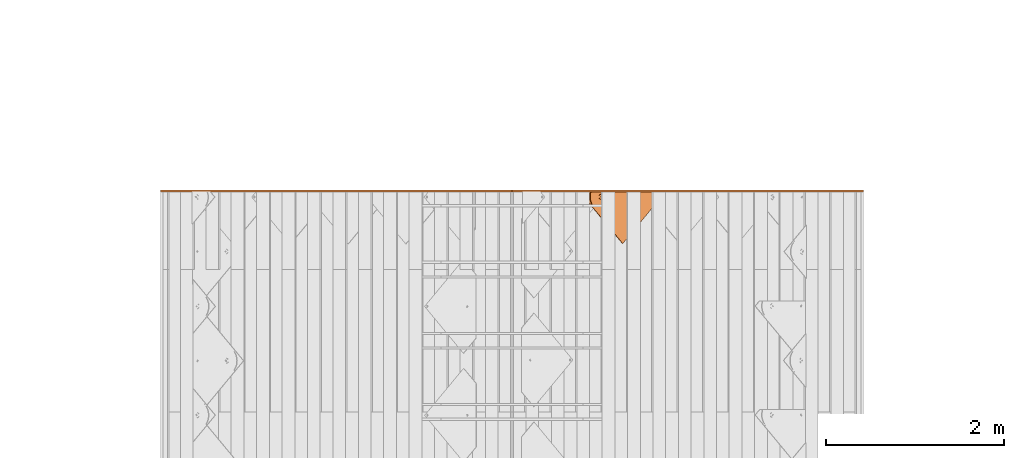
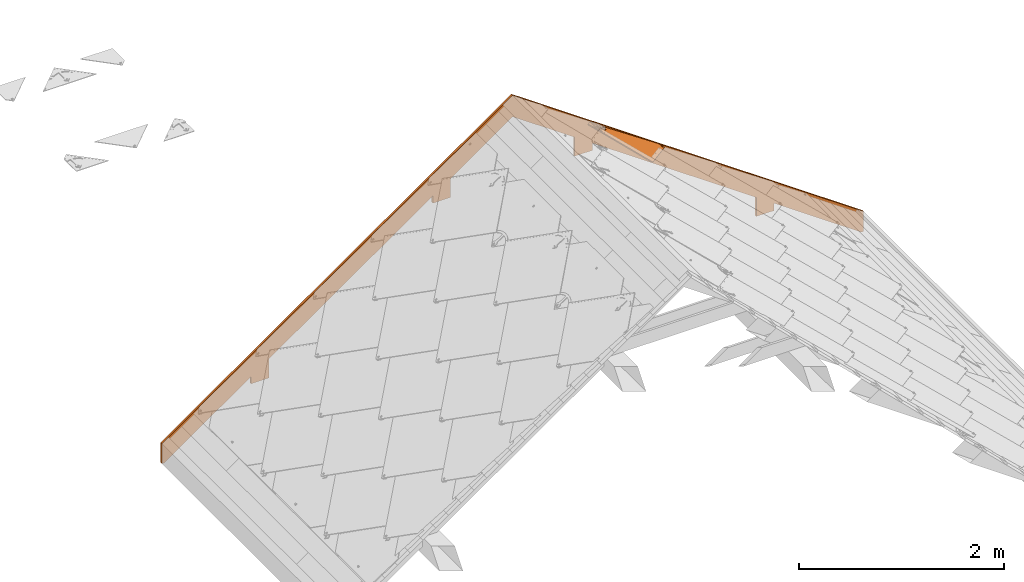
# One storey, part 95 of 151: 2 proxies, 1 element without a shape of its own.
"""IFC2X3 building model written with IfcOpenShell, lengths in millimetres."""

from ifc_helpers import new_model, entity, si_unit, converted_unit, derived_unit, direction, frame, origin, place, context, subcontext, project, spatial, polyline, outline, extrude, faceted_brep, source, transform, mapped, material, material_list, type_object, type_shapes, element, aggregate, save


model = new_model("IFC2X3")

# Units and contexts
model_context = context("Model", 3, precision=0.01, world=origin(), true_north=direction((6.12303176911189e-17, 1.0)))
body_context = subcontext(model_context, "Body", "Model", "MODEL_VIEW")
ifc_project = project(units=[si_unit("LENGTHUNIT", "METRE", prefix="MILLI"), si_unit("AREAUNIT", "SQUARE_METRE"), si_unit("VOLUMEUNIT", "CUBIC_METRE"), converted_unit("PLANEANGLEUNIT", "DEGREE", entity("IfcRatioMeasure", 0.0174532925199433), si_unit("PLANEANGLEUNIT", "RADIAN"), dimensions=[0, 0, 0, 0, 0, 0, 0]), si_unit("MASSUNIT", "GRAM", prefix="KILO"), derived_unit("MASSDENSITYUNIT", [(si_unit("MASSUNIT", "GRAM", prefix="KILO"), 1), (si_unit("LENGTHUNIT", "METRE"), -3)]), si_unit("TIMEUNIT", "SECOND"), si_unit("FREQUENCYUNIT", "HERTZ"), si_unit("THERMODYNAMICTEMPERATUREUNIT", "DEGREE_CELSIUS"), derived_unit("THERMALTRANSMITTANCEUNIT", [(si_unit("MASSUNIT", "GRAM", prefix="KILO"), 1), (si_unit("THERMODYNAMICTEMPERATUREUNIT", "KELVIN"), -1), (si_unit("TIMEUNIT", "SECOND"), -3)]), derived_unit("VOLUMETRICFLOWRATEUNIT", [(si_unit("LENGTHUNIT", "METRE"), 3), (si_unit("TIMEUNIT", "SECOND"), -1)]), si_unit("ELECTRICCURRENTUNIT", "AMPERE"), si_unit("ELECTRICVOLTAGEUNIT", "VOLT"), si_unit("POWERUNIT", "WATT"), si_unit("FORCEUNIT", "NEWTON", prefix="KILO"), si_unit("ILLUMINANCEUNIT", "LUX"), si_unit("LUMINOUSFLUXUNIT", "LUMEN"), si_unit("LUMINOUSINTENSITYUNIT", "CANDELA"), derived_unit("USERDEFINED", [(si_unit("MASSUNIT", "GRAM", prefix="KILO"), -1), (si_unit("LENGTHUNIT", "METRE"), -2), (si_unit("TIMEUNIT", "SECOND"), 3), (si_unit("LUMINOUSFLUXUNIT", "LUMEN"), 1)]), derived_unit("LINEARVELOCITYUNIT", [(si_unit("LENGTHUNIT", "METRE"), 1), (si_unit("TIMEUNIT", "SECOND"), -1)]), si_unit("PRESSUREUNIT", "PASCAL"), derived_unit("USERDEFINED", [(si_unit("LENGTHUNIT", "METRE"), -2), (si_unit("MASSUNIT", "GRAM", prefix="KILO"), 1), (si_unit("TIMEUNIT", "SECOND"), -2)])], contexts=[model_context])

# Site, building, storey
site_placement = place(None, origin())
site = spatial("IfcSite", under=ifc_project, at=site_placement, Name="Default", CompositionType="ELEMENT")
building_placement = place(site_placement, origin())
building = spatial("IfcBuilding", under=site, at=building_placement, CompositionType="ELEMENT")
storey_placement = place(building_placement, origin())
storey = spatial("IfcBuildingStorey", under=building, at=storey_placement, Name="Level 1", CompositionType="ELEMENT", Elevation=0.0)

# Proxy
ifc_material_1 = material(Name="Rubber - Sunstyle - Black")
ifc_material_2 = material(Name="Glass - Sunstyle - Tainted Black")
ifc_material_list_1 = material_list([ifc_material_1, ifc_material_2])
ifc_material_list_2 = material_list([ifc_material_1, ifc_material_2])
building_element_proxy_type_1 = type_object("IfcBuildingElementProxyType", Name="Shingle Right - Black", PredefinedType="NOTDEFINED", material=ifc_material_list_2)
shared_shape_1 = source(origin(), body_context, "Body", "Brep", [
    faceted_brep([(526.70519509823, 41.3127833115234, 3.87722628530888), (520.930992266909, 37.9795131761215, 3.9330502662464), (520.930992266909, 38.34782226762, 25.9249196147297), (526.70519509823, 41.6810924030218, 25.8690956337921), (520.930992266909, 31.3129729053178, 4.0446982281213), (520.930992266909, 31.6812819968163, 26.0365675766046), (526.70519509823, 27.979702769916, 4.1005222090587), (526.70519509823, 28.3480118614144, 26.092391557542), (532.47939792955, 31.3129729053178, 4.04469822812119), (532.47939792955, 31.6812819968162, 26.0365675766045), (532.47939792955, 37.9795131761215, 3.93305026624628), (532.47939792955, 38.3478222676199, 25.9249196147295), (518.101490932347, 26.4120542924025, 26.1248140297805), (526.70519509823, 22.8487830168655, 26.1844899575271), (514.537719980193, 35.0145521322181, 25.9807435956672), (518.101490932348, 43.6170499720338, 25.8366731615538), (526.70519509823, 47.1803212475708, 25.776997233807), (535.308899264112, 43.6170499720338, 25.8366731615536), (538.872670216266, 35.0145521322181, 25.9807435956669), (535.308899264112, 26.4120542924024, 26.1248140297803), (515.380950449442, 37.3096292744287, 28.2935855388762), (516.94872054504, 35.0855670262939, 30.2210682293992), (526.70519509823, 42.3986422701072, 30.8537686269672), (526.70519509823, 43.6391399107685, 30.2734219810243), (526.70519509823, 45.7966907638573, 29.2640469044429), (526.70519509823, 23.4048270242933, 27.4595479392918), (526.70519509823, 24.3484036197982, 29.6232523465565), (526.70519509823, 27.7977793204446, 31.0982967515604), (526.70519509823, 46.6672851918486, 27.0699596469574), (520.381949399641, 31.4479950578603, 31.0371647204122), (520.381949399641, 38.7484265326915, 30.9149006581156), (538.029439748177, 32.7982090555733, 28.3691406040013), (536.554075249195, 34.0111605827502, 30.1422000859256), (533.028440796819, 38.7484265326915, 30.9149006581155), (533.028440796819, 31.4479950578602, 31.0371647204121), (520.381949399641, 31.5820235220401, 39.0400528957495), (526.70519509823, 27.9318077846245, 39.1011849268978), (526.70519509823, 35.2322392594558, 38.9789208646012), (520.381949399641, 38.8824549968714, 38.9177888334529), (533.028440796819, 31.5820235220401, 39.0400528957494), (533.028440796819, 38.8824549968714, 38.9177888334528), (526.70519509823, 42.532670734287, 38.8566568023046), (526.70519509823, 34.6462430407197, 3.98887424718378)], [[[0, 1, 2, 3]], [[1, 4, 5, 2]], [[4, 6, 7, 5]], [[6, 8, 9, 7]], [[8, 10, 11, 9]], [[10, 0, 3, 11]], [[12, 7, 13]], [[7, 12, 5]], [[14, 5, 12]], [[5, 14, 2]], [[15, 2, 14]], [[3, 2, 15]], [[15, 16, 3]], [[16, 17, 3]], [[11, 3, 17]], [[11, 17, 18]], [[9, 11, 18]], [[18, 19, 9]], [[7, 9, 19]], [[19, 13, 7]], [[20, 14, 12]], [[21, 22, 23, 24]], [[24, 20, 21]], [[25, 20, 12]], [[26, 27, 21]], [[15, 14, 20]], [[12, 13, 25]], [[20, 28, 15]], [[28, 20, 24]], [[21, 27, 29]], [[21, 29, 30]], [[26, 21, 20]], [[20, 25, 26]], [[15, 28, 16]], [[21, 30, 22]], [[31, 18, 17]], [[28, 31, 17]], [[32, 27, 26]], [[26, 31, 32]], [[26, 25, 31]], [[25, 19, 31]], [[17, 16, 28]], [[31, 19, 18]], [[24, 31, 28]], [[33, 34, 32]], [[23, 22, 33]], [[24, 32, 31]], [[27, 32, 34]], [[32, 23, 33]], [[19, 25, 13]], [[32, 24, 23]], [[35, 36, 37]], [[37, 38, 35]], [[36, 39, 37]], [[40, 37, 39]], [[37, 40, 41]], [[37, 41, 38]], [[42, 6, 4]], [[4, 1, 42]], [[1, 0, 42]], [[42, 8, 6]], [[0, 10, 42]], [[8, 42, 10]], [[22, 30, 38, 41]], [[30, 29, 35, 38]], [[29, 27, 36, 35]], [[27, 34, 39, 36]], [[34, 33, 40, 39]], [[33, 22, 41, 40]]]),
    faceted_brep([(526.70519509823, 811.19100538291, 21.4210230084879), (526.70519509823, 815.690374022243, 21.3456697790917), (518.101490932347, 814.754276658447, 21.3613470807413), (535.308899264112, 814.754276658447, 21.3613470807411), (533.345423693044, 819.523574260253, 21.2814732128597), (538.872670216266, 823.356774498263, 21.2172766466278), (533.345423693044, 827.189974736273, 21.1530800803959), (535.308899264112, 831.959272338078, 21.0732062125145), (526.70519509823, 831.023174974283, 21.0888835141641), (526.70519509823, 835.522543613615, 21.0135302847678), (518.101490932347, 831.959272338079, 21.0732062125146), (520.064966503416, 827.189974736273, 21.1530800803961), (514.537719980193, 823.356774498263, 21.217276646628), (520.064966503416, 819.523574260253, 21.2814732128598), (520.064966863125, 826.922051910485, 5.15532344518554), (526.70519509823, 830.755251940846, 5.09112688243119), (520.064966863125, 819.255651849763, 5.2837165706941), (526.70519509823, 815.422451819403, 5.34791313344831), (533.345423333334, 819.255651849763, 5.28371657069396), (533.345423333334, 826.922051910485, 5.1553234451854), (518.101490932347, 814.486354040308, 5.36359044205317), (526.70519509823, 810.923082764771, 5.4232663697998), (514.537719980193, 823.088851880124, 5.21952000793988), (518.101490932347, 831.69134971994, 5.07544957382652), (526.70519509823, 835.254620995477, 5.01577364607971), (535.308899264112, 831.69134971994, 5.07544957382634), (538.872670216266, 823.088851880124, 5.21952000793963), (535.308899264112, 814.486354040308, 5.36359044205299)], [[[0, 1, 2]], [[1, 0, 3]], [[3, 4, 1]], [[4, 3, 5]], [[6, 4, 5]], [[5, 7, 6]], [[7, 8, 6]], [[8, 7, 9]], [[8, 9, 10]], [[10, 11, 8]], [[12, 11, 10]], [[2, 13, 12]], [[12, 13, 11]], [[13, 2, 1]], [[8, 11, 14, 15]], [[11, 13, 16, 14]], [[13, 1, 17, 16]], [[1, 4, 18, 17]], [[4, 6, 19, 18]], [[6, 8, 15, 19]], [[20, 17, 21]], [[17, 20, 16]], [[22, 16, 20]], [[14, 16, 22]], [[23, 14, 22]], [[15, 14, 23]], [[23, 24, 15]], [[24, 25, 15]], [[19, 15, 25]], [[19, 25, 26]], [[26, 18, 19]], [[26, 27, 18]], [[17, 18, 27]], [[27, 21, 17]], [[24, 23, 10, 9]], [[10, 23, 22, 12]], [[20, 21, 0, 2]], [[20, 2, 12, 22]], [[21, 27, 3, 0]], [[3, 27, 26, 5]], [[25, 24, 9, 7]], [[25, 7, 5, 26]]]),
    faceted_brep([(578.30986553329, 967.15023469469, 8.79467739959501), (586.794551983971, 975.634921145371, 8.65258001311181), (586.794551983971, 975.660038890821, 10.1523696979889), (578.30986553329, 967.17535244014, 10.294467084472), (517.891471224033, 1027.55168765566, 7.7831033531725), (8.48468645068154, 518.287740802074, 16.3120073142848), (0.0, 526.772427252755, 16.1699099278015), (517.891471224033, 1044.51868144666, 7.49894842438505), (517.891471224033, 1044.54379919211, 8.99873810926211), (0.0, 526.797544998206, 17.6696996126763), (8.4846864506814, 518.312858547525, 17.8117969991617), (517.891471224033, 1027.57680540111, 9.28289303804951)], [[[0, 1, 2, 3]], [[1, 0, 4, 5, 6, 7]], [[2, 1, 7, 8]], [[3, 2, 8, 9, 10, 11]], [[0, 3, 11, 4]], [[5, 10, 9, 6]], [[8, 7, 6, 9]], [[4, 11, 10, 5]]]),
    faceted_brep([(586.794551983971, 975.634921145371, 8.65258001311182), (517.891471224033, 1044.51868144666, 7.49894842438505), (523.812678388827, 834.561085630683, 11.0152157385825), (526.918506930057, 834.969918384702, 11.0083688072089), (530.024335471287, 834.561085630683, 11.0152157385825), (532.918506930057, 833.362448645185, 11.0352899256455), (535.403788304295, 831.455692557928, 11.0672233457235), (537.31081177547, 828.970759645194, 11.1088397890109), (538.509616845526, 826.076993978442, 11.1573031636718), (538.918506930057, 822.971600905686, 11.2093107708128), (538.509616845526, 819.86620783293, 11.2613183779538), (586.79455198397, 60.1087646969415, 23.9853651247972), (520.918506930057, 833.362448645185, 11.0352899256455), (518.433225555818, 831.455692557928, 11.0672233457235), (516.526202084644, 828.970759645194, 11.1088397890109), (515.327397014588, 826.076993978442, 11.1573031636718), (0.0, 526.772427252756, 16.1699099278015), (514.918506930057, 822.971600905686, 11.2093107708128), (515.327397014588, 819.86620783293, 11.2613183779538), (516.526202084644, 816.972442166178, 11.3097817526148), (518.433225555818, 814.487509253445, 11.3513981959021), (520.918506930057, 812.580753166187, 11.3833316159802), (523.812678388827, 811.382116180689, 11.4034058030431), (524.667140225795, 42.642731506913, 24.2778777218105), (522.737692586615, 41.8436401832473, 24.2912605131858), (521.080838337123, 40.572469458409, 24.3125494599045), (519.80948935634, 38.9158475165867, 24.3402937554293), (519.010285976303, 36.9866704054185, 24.37260267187), (518.737692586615, 34.9164083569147, 24.407274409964), (519.010285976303, 32.8461463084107, 24.441946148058), (526.794551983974, 0.125588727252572, 24.989934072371), (519.80948935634, 30.9169691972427, 24.4742550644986), (533.665895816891, 30.9169691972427, 24.4742550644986), (532.394546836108, 29.2603472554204, 24.5019993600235), (530.737692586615, 27.9891765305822, 24.5232883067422), (528.808244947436, 27.1900852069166, 24.5366710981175), (526.737692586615, 26.9175300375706, 24.5412357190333), (524.667140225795, 27.1900852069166, 24.5366710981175), (522.737692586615, 27.9891765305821, 24.5232883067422), (521.080838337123, 29.2603472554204, 24.5019993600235), (526.737692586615, 42.9152866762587, 24.2733131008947), (528.808244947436, 42.6427315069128, 24.2778777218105), (530.737692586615, 41.8436401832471, 24.2912605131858), (532.394546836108, 40.572469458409, 24.3125494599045), (533.665895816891, 38.9158475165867, 24.3402937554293), (534.465099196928, 36.9866704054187, 24.37260267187), (534.737692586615, 34.9164083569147, 24.407274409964), (534.465099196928, 32.8461463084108, 24.441946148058), (526.918506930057, 810.97328342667, 11.4102527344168), (537.31081177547, 816.972442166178, 11.3097817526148), (535.403788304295, 814.487509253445, 11.3513981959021), (532.918506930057, 812.580753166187, 11.3833316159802), (530.024335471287, 811.382116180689, 11.4034058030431), (0.0, 526.646838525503, 8.67096150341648), (519.80948935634, 38.790258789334, 16.8413453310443), (519.010285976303, 36.8610816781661, 16.8736542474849), (521.080838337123, 40.4468807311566, 16.8136010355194), (518.737692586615, 34.7908196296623, 16.9083259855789), (519.010285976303, 32.7205575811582, 16.9429977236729), (526.794551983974, 0.0, 17.4909856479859), (522.737692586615, 41.7180514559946, 16.7923120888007), (524.667140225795, 42.5171427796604, 16.7789292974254), (523.812678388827, 811.256527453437, 3.90445737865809), (520.918506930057, 812.455164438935, 3.88438319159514), (518.433225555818, 814.361920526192, 3.85244977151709), (516.526202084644, 816.846853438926, 3.81083332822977), (515.327397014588, 819.740619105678, 3.76236995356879), (514.918506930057, 822.846012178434, 3.71036234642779), (515.327397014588, 825.95140525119, 3.65835473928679), (517.891471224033, 1044.39309271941, 0.0), (516.526202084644, 828.845170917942, 3.60989136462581), (518.433225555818, 831.330103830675, 3.56827492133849), (520.918506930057, 833.236859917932, 3.53634150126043), (523.812678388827, 834.435496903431, 3.51626731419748), (586.794551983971, 975.509332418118, 1.15363158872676), (526.918506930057, 834.84432965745, 3.50942038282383), (530.024335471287, 834.435496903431, 3.51626731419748), (532.918506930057, 833.236859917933, 3.53634150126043), (535.403788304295, 831.330103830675, 3.56827492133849), (537.31081177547, 828.845170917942, 3.60989136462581), (538.509616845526, 825.95140525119, 3.65835473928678), (538.918506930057, 822.846012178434, 3.71036234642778), (538.509616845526, 819.740619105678, 3.76236995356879), (586.79455198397, 59.983175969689, 16.4864167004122), (526.737692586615, 42.7896979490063, 16.7743646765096), (528.808244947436, 42.5171427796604, 16.7789292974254), (530.737692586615, 41.7180514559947, 16.7923120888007), (532.394546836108, 40.4468807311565, 16.8136010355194), (533.665895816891, 30.7913804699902, 16.9753066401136), (534.465099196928, 32.7205575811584, 16.9429977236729), (534.737692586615, 34.7908196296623, 16.9083259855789), (534.465099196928, 36.8610816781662, 16.8736542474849), (533.665895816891, 38.7902587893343, 16.8413453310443), (526.918506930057, 810.847694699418, 3.91130431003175), (530.024335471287, 811.256527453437, 3.90445737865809), (532.918506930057, 812.455164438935, 3.88438319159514), (535.403788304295, 814.361920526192, 3.85244977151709), (537.31081177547, 816.846853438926, 3.81083332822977), (519.80948935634, 30.7913804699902, 16.9753066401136), (521.080838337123, 29.134758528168, 17.0030509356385), (522.737692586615, 27.8635878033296, 17.0243398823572), (524.667140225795, 27.0644964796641, 17.0377226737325), (526.737692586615, 26.7919413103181, 17.0422872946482), (528.808244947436, 27.0644964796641, 17.0377226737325), (530.737692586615, 27.8635878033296, 17.0243398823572), (532.394546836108, 29.1347585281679, 17.0030509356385)], [[[0, 1, 2]], [[0, 2, 3]], [[3, 4, 0]], [[4, 5, 0]], [[0, 5, 6]], [[6, 7, 0]], [[7, 8, 0]], [[8, 9, 0]], [[9, 10, 0]], [[0, 10, 11]], [[2, 1, 12]], [[13, 12, 1]], [[14, 13, 1]], [[14, 1, 15]], [[15, 1, 16]], [[16, 17, 15]], [[17, 16, 18]], [[19, 18, 16]], [[19, 16, 20]], [[21, 20, 16]], [[22, 21, 16]], [[23, 22, 16]], [[24, 23, 16]], [[16, 25, 24]], [[25, 16, 26]], [[26, 16, 27]], [[28, 27, 16]], [[28, 16, 29]], [[29, 16, 30]], [[30, 31, 29]], [[11, 32, 30]], [[30, 32, 33]], [[34, 30, 33]], [[34, 35, 30]], [[36, 30, 35]], [[30, 36, 37]], [[37, 38, 30]], [[38, 39, 30]], [[39, 31, 30]], [[23, 11, 22]], [[11, 23, 40]], [[11, 40, 41]], [[11, 41, 42]], [[42, 43, 11]], [[44, 11, 43]], [[44, 45, 11]], [[45, 46, 11]], [[47, 11, 46]], [[11, 47, 32]], [[22, 11, 48]], [[10, 49, 11]], [[49, 50, 11]], [[50, 51, 11]], [[51, 52, 11]], [[52, 48, 11]], [[53, 54, 55]], [[54, 53, 56]], [[53, 55, 57]], [[57, 58, 53]], [[53, 58, 59]], [[60, 56, 53]], [[61, 60, 53]], [[61, 53, 62]], [[62, 53, 63]], [[53, 64, 63]], [[64, 53, 65]], [[65, 53, 66]], [[66, 53, 67]], [[67, 53, 68]], [[53, 69, 68]], [[70, 68, 69]], [[71, 70, 69]], [[69, 72, 71]], [[73, 72, 69]], [[73, 69, 74]], [[75, 73, 74]], [[75, 74, 76]], [[77, 76, 74]], [[74, 78, 77]], [[79, 78, 74]], [[80, 79, 74]], [[80, 74, 81]], [[81, 74, 82]], [[82, 74, 83]], [[84, 61, 83]], [[83, 85, 84]], [[86, 85, 83]], [[83, 87, 86]], [[59, 88, 83]], [[83, 88, 89]], [[90, 83, 89]], [[90, 91, 83]], [[91, 92, 83]], [[87, 83, 92]], [[62, 83, 61]], [[93, 83, 62]], [[83, 93, 94]], [[94, 95, 83]], [[83, 95, 96]], [[96, 97, 83]], [[97, 82, 83]], [[59, 58, 98]], [[99, 59, 98]], [[99, 100, 59]], [[100, 101, 59]], [[102, 59, 101]], [[59, 102, 103]], [[59, 103, 104]], [[104, 105, 59]], [[105, 88, 59]], [[16, 1, 69, 53]], [[30, 16, 53, 59]], [[11, 30, 59, 83]], [[1, 0, 74, 69]], [[28, 57, 55, 27]], [[27, 55, 54, 26]], [[24, 25, 56, 60]], [[56, 25, 26, 54]], [[23, 24, 60, 61]], [[23, 61, 84, 40]], [[40, 84, 85, 41]], [[41, 85, 86, 42]], [[44, 43, 87, 92]], [[87, 43, 42, 86]], [[45, 44, 92, 91]], [[45, 91, 90, 46]], [[46, 90, 89, 47]], [[47, 89, 88, 32]], [[34, 33, 105, 104]], [[105, 33, 32, 88]], [[35, 34, 104, 103]], [[35, 103, 102, 36]], [[36, 102, 101, 37]], [[37, 101, 100, 38]], [[31, 39, 99, 98]], [[39, 38, 100, 99]], [[58, 29, 31, 98]], [[29, 58, 57, 28]], [[17, 67, 68, 15]], [[15, 68, 70, 14]], [[12, 13, 71, 72]], [[71, 13, 14, 70]], [[2, 12, 72, 73]], [[2, 73, 75, 3]], [[3, 75, 76, 4]], [[4, 76, 77, 5]], [[7, 6, 78, 79]], [[78, 6, 5, 77]], [[8, 7, 79, 80]], [[8, 80, 81, 9]], [[9, 81, 82, 10]], [[10, 82, 97, 49]], [[51, 50, 96, 95]], [[96, 50, 49, 97]], [[52, 51, 95, 94]], [[52, 94, 93, 48]], [[48, 93, 62, 22]], [[22, 62, 63, 21]], [[19, 20, 64, 65]], [[64, 20, 21, 63]], [[18, 19, 65, 66]], [[18, 66, 67, 17]], [[0, 11, 83, 74]]]),
    faceted_brep([(503.195324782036, 841.557074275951, 20.8994526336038), (517.914693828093, 832.008099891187, 21.0593741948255), (507.695869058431, 846.190079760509, 20.8218613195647), (516.007670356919, 829.523166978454, 21.1009906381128), (499.815755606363, 836.052923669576, 20.9916334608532), (514.808865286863, 826.629401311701, 21.1494540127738), (497.720422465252, 829.943523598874, 21.0939507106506), (514.399975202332, 823.524008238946, 21.2014616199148), (497.010547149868, 823.524008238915, 21.2014616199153), (514.808865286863, 820.41861516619, 21.2534692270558), (516.007670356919, 817.524849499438, 21.3019326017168), (517.914693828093, 815.039916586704, 21.3435490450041), (526.399975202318, 794.138700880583, 21.6935924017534), (520.399975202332, 813.133160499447, 21.3754824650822), (523.294146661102, 811.934523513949, 21.3955566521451), (526.399975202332, 811.52569075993, 21.4024035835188), (529.505803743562, 811.934523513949, 21.3955566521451), (532.399975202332, 813.133160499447, 21.3754824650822), (534.885256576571, 815.039916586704, 21.3435490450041), (555.789403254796, 823.524008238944, 21.2014616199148), (536.792280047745, 817.524849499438, 21.3019326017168), (537.991085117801, 820.41861516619, 21.2534692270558), (538.399975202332, 823.524008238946, 21.2014616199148), (555.079527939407, 829.943523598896, 21.0939507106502), (537.991085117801, 826.629401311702, 21.1494540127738), (552.984194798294, 836.052923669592, 20.9916334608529), (536.792280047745, 829.523166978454, 21.1009906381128), (549.604625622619, 841.557074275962, 20.8994526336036), (534.88525657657, 832.008099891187, 21.0593741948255), (545.104081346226, 846.190079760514, 20.8218613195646), (532.399975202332, 833.914855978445, 21.0274407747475), (539.69997520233, 849.728127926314, 20.7626078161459), (529.505803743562, 835.113492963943, 21.0073665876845), (526.399975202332, 835.522325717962, 21.0005196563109), (513.09997520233, 849.728127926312, 20.762607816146), (513.099975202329, 947.789128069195, 19.1203300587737), (539.699975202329, 948.373752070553, 19.1105390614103), (522.252457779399, 973.425526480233, 18.6909841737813), (556.520926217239, 971.308509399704, 18.7264389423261), (565.239246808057, 944.126992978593, 19.1816617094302), (589.568348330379, 961.999667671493, 18.8823388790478), (589.568348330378, 935.274464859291, 19.3299195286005), (488.310294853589, 968.25512753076, 18.7775754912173), (488.729131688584, 942.717602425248, 19.2052654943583), (456.227055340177, 956.030775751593, 18.9823029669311), (465.633151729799, 933.432284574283, 19.3607714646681), (444.534595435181, 920.223666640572, 19.5819829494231), (427.451419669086, 937.304447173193, 19.2959223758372), (520.399975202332, 833.914855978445, 21.0274407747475), (523.294146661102, 835.113492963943, 21.0073665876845), (526.399975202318, 793.971249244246, 11.6949945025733), (526.399975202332, 811.358239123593, 11.4038056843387), (529.505803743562, 811.767071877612, 11.396958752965), (523.294146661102, 811.767071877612, 11.396958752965), (532.399975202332, 812.96570886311, 11.3768845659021), (534.885256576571, 814.872464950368, 11.344951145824), (555.789403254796, 823.356556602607, 11.2028637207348), (520.399975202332, 812.96570886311, 11.3768845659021), (517.914693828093, 814.872464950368, 11.344951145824), (497.010547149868, 823.356556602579, 11.2028637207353), (516.007670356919, 817.357397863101, 11.3033347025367), (514.808865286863, 820.251163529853, 11.2548713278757), (514.399975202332, 823.356556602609, 11.2028637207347), (497.720422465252, 829.776071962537, 11.0953528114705), (514.808865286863, 826.461949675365, 11.1508561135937), (499.815755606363, 835.885472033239, 10.9930355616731), (516.007670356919, 829.355715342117, 11.1023927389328), (503.195324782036, 841.389622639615, 10.9008547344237), (517.914693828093, 831.84064825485, 11.0607762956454), (507.695869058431, 846.022628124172, 10.8232634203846), (520.399975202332, 833.747404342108, 11.0288428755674), (513.09997520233, 849.560676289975, 10.7640099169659), (523.294146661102, 834.946041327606, 11.0087686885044), (526.399975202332, 835.354874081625, 11.0019217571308), (539.69997520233, 849.560676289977, 10.7640099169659), (513.099975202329, 947.621676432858, 9.12173215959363), (539.69997520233, 948.206300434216, 9.11194116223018), (522.252457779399, 973.258074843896, 8.69238627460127), (488.310294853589, 968.087675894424, 8.77897759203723), (488.729131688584, 942.550150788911, 9.20666759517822), (456.227055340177, 955.863324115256, 8.98370506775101), (465.633151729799, 933.264832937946, 9.36217356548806), (444.533467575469, 920.055518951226, 9.58339670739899), (428.044288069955, 936.544210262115, 9.30725215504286), (421.793762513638, 931.184466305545, 9.39701453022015), (415.826529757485, 925.515365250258, 9.49195786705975), (418.207622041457, 893.733364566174, 10.0242272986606), (401.122816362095, 910.815774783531, 9.73813943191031), (427.451419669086, 937.136995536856, 9.29732447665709), (556.520926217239, 971.141057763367, 8.727841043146), (565.239246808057, 943.959541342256, 9.18306381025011), (589.568348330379, 961.832216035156, 8.88374097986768), (589.568348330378, 935.107013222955, 9.33132162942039), (529.505803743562, 834.946041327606, 11.0087686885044), (532.399975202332, 833.747404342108, 11.0288428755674), (545.104081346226, 846.022628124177, 10.8232634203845), (534.88525657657, 831.84064825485, 11.0607762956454), (549.604625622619, 841.389622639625, 10.9008547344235), (536.792280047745, 829.355715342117, 11.1023927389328), (552.984194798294, 835.885472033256, 10.9930355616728), (537.991085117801, 826.461949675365, 11.1508561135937), (555.079527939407, 829.77607196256, 11.0953528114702), (538.399975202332, 823.356556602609, 11.2028637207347), (537.991085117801, 820.251163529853, 11.2548713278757), (536.792280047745, 817.357397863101, 11.3033347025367), (415.826529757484, 925.557228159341, 11.9916073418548), (401.122816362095, 910.857637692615, 12.2377889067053), (418.207622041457, 893.775227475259, 12.5238767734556), (444.534595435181, 920.09807791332, 12.083034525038), (428.042008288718, 936.584216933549, 11.8069327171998), (421.793762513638, 931.226329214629, 11.8966640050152)], [[[0, 1, 2]], [[3, 1, 0]], [[4, 3, 0]], [[5, 3, 4]], [[4, 6, 5]], [[6, 7, 5]], [[7, 6, 8]], [[9, 7, 8]], [[10, 9, 8]], [[10, 8, 11]], [[8, 12, 11]], [[13, 11, 12]], [[13, 12, 14]], [[12, 15, 14]], [[15, 12, 16]], [[16, 12, 17]], [[18, 17, 12]], [[18, 12, 19]], [[19, 20, 18]], [[21, 20, 19]], [[22, 21, 19]], [[19, 23, 22]], [[24, 22, 23]], [[23, 25, 24]], [[25, 26, 24]], [[26, 25, 27]], [[28, 26, 27]], [[27, 29, 28]], [[30, 28, 29]], [[29, 31, 30]], [[30, 31, 32]], [[32, 31, 33]], [[31, 34, 33]], [[35, 34, 31]], [[35, 31, 36]], [[36, 37, 35]], [[36, 38, 37]], [[39, 38, 36]], [[38, 39, 40]], [[41, 40, 39]], [[37, 42, 35]], [[35, 42, 43]], [[43, 42, 44]], [[44, 45, 43]], [[44, 46, 45]], [[46, 44, 47]], [[48, 34, 2]], [[48, 49, 34]], [[34, 49, 33]], [[48, 2, 1]], [[50, 51, 52]], [[51, 50, 53]], [[50, 52, 54]], [[54, 55, 50]], [[50, 55, 56]], [[57, 53, 50]], [[58, 57, 50]], [[58, 50, 59]], [[59, 60, 58]], [[60, 59, 61]], [[61, 59, 62]], [[63, 62, 59]], [[64, 62, 63]], [[63, 65, 64]], [[64, 65, 66]], [[65, 67, 66]], [[68, 66, 67]], [[69, 68, 67]], [[69, 70, 68]], [[70, 69, 71]], [[71, 72, 70]], [[71, 73, 72]], [[74, 73, 71]], [[71, 75, 74]], [[75, 76, 74]], [[76, 75, 77]], [[77, 75, 78]], [[79, 78, 75]], [[80, 78, 79]], [[79, 81, 80]], [[81, 82, 80]], [[82, 83, 80]], [[84, 83, 82]], [[84, 82, 85]], [[82, 86, 85]], [[86, 87, 85]], [[83, 88, 80]], [[76, 77, 89]], [[89, 90, 76]], [[90, 89, 91]], [[91, 92, 90]], [[93, 73, 74]], [[74, 94, 93]], [[94, 74, 95]], [[95, 96, 94]], [[95, 97, 96]], [[96, 97, 98]], [[99, 98, 97]], [[99, 100, 98]], [[101, 100, 99]], [[102, 100, 101]], [[56, 102, 101]], [[103, 102, 56]], [[56, 55, 104]], [[103, 56, 104]], [[34, 35, 75, 71]], [[2, 34, 71, 69]], [[0, 2, 69, 67]], [[67, 65, 4, 0]], [[6, 4, 65, 63]], [[8, 6, 63, 59]], [[12, 8, 59, 50]], [[19, 12, 50, 56]], [[23, 19, 56, 101]], [[25, 23, 101, 99]], [[99, 97, 27, 25]], [[29, 27, 97, 95]], [[31, 29, 95, 74]], [[36, 31, 74, 76]], [[38, 40, 91, 89]], [[37, 38, 89, 77]], [[77, 78, 42, 37]], [[44, 42, 78, 80]], [[47, 44, 80, 88]], [[7, 62, 64, 5]], [[5, 64, 66, 3]], [[48, 1, 68, 70]], [[66, 68, 1, 3]], [[49, 48, 70, 72]], [[73, 33, 49, 72]], [[32, 93, 94, 30]], [[30, 94, 96, 28]], [[24, 26, 98, 100]], [[96, 98, 26, 28]], [[22, 24, 100, 102]], [[32, 33, 73, 93]], [[22, 102, 103, 21]], [[21, 103, 104, 20]], [[17, 18, 55, 54]], [[104, 55, 18, 20]], [[16, 17, 54, 52]], [[51, 15, 16, 52]], [[14, 53, 57, 13]], [[13, 57, 58, 11]], [[9, 10, 60, 61]], [[58, 60, 10, 11]], [[7, 9, 61, 62]], [[14, 15, 51, 53]], [[105, 106, 107, 108, 109, 110]], [[107, 106, 87, 86]], [[108, 107, 82]], [[86, 82, 107]], [[109, 83, 110]], [[110, 83, 84]], [[84, 85, 105, 110]], [[106, 105, 85, 87]], [[46, 47, 109]], [[109, 47, 88]], [[46, 109, 108]], [[83, 109, 88]], [[108, 81, 45, 46]], [[108, 82, 81]], [[79, 75, 35, 43]], [[81, 79, 43, 45]], [[76, 90, 39, 36]], [[92, 41, 39, 90]], [[40, 41, 92, 91]]]),
])
type_shapes(building_element_proxy_type_1, [shared_shape_1])
proxy_1_placement = place(storey_placement, frame((2931.37195886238, 3346.92152103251, 1663.35740457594), z_axis=(0.573576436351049, 0.0, 0.81915204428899), x_axis=(0.0, 1.0, 0.0)))
element("IfcBuildingElementProxy", 1, at=proxy_1_placement, inside=storey, type_object=building_element_proxy_type_1, material=ifc_material_list_1, Name="Roofing_Panels_SunStyle_Tile_Shingle-Right:Shingle Right - Black", ObjectType="Roofing_Panels_SunStyle_Tile_Shingle-Right:Shingle Right - Black", context=body_context, shape_type="MappedRepresentation", body=[
    mapped(shared_shape_1, transform((0.0, 0.0, 0.0), scale=1.0)),
])

# Assembly, proxy
assembly_placement = place(storey_placement, origin())
assembly = element("IfcElementAssembly", 2, at=assembly_placement, inside=storey, Name="Structural Framing Assembly:Roof Construction Assembly", ObjectType="Structural Framing Assembly:Roof Construction Assembly", AssemblyPlace="NOTDEFINED", PredefinedType="USERDEFINED")
ifc_material_3 = material(Name="Steel - Generic - Black Steel")
building_element_proxy_type_2 = type_object("IfcBuildingElementProxyType", Name="Structural Framing 323", PredefinedType="NOTDEFINED", material=ifc_material_3)
shared_shape_2 = source(origin(), body_context, "Body", "SweptSolid", [
    extrude(outline(polyline([(3925.79042238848, -1249.733740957), (3950.79042238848, -1249.733740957), (3950.79042238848, -1010.88054489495), (0.0, 1755.49269074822), (-3950.79042238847, -1010.88054489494), (-3950.79042238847, -1249.73374095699), (-3925.79042238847, -1249.73374095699), (-2945.79042238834, -563.530353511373), (-2945.79042238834, -649.526202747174), (-2745.79042238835, -649.526202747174), (-2745.79042238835, -423.488845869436), (-897.910311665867, 870.410737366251), (-897.910311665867, 784.414888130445), (-697.910311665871, 784.414888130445), (-697.910311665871, 1010.45224500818), (0.0, 1499.13430623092), (697.910311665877, 1010.45224500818), (697.910311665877, 784.414888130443), (897.910311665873, 784.414888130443), (897.910311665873, 870.41073736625), (2745.79042238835, -423.488845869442), (2745.79042238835, -649.52620274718), (2945.79042238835, -649.52620274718), (2945.79042238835, -563.53035351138), (3925.79042238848, -1249.733740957)])), frame((1206.77890726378, 3925.55080214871, 1105.54175956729), z_axis=(0.0, 1.0, 0.0), x_axis=(-1.0, 0.0, 0.0)), (0.0, 0.0, 1.0), 24.9999999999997),
])
type_shapes(building_element_proxy_type_2, [shared_shape_2])
proxy_2_placement = place(assembly_placement, frame((57.4878711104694, 0.0, 0.0)))
proxy_2 = element("IfcBuildingElementProxy", 3, at=proxy_2_placement, type_object=building_element_proxy_type_2, material=ifc_material_3, Name="Structural Framing 324:Structural Framing 323", ObjectType="Structural Framing 324:Structural Framing 323", context=body_context, shape_type="MappedRepresentation", body=[
    mapped(shared_shape_2, transform((0.0, 0.0, 0.0), scale=1.0)),
])
aggregate(assembly, [proxy_2])

save(model, "model.ifc")
